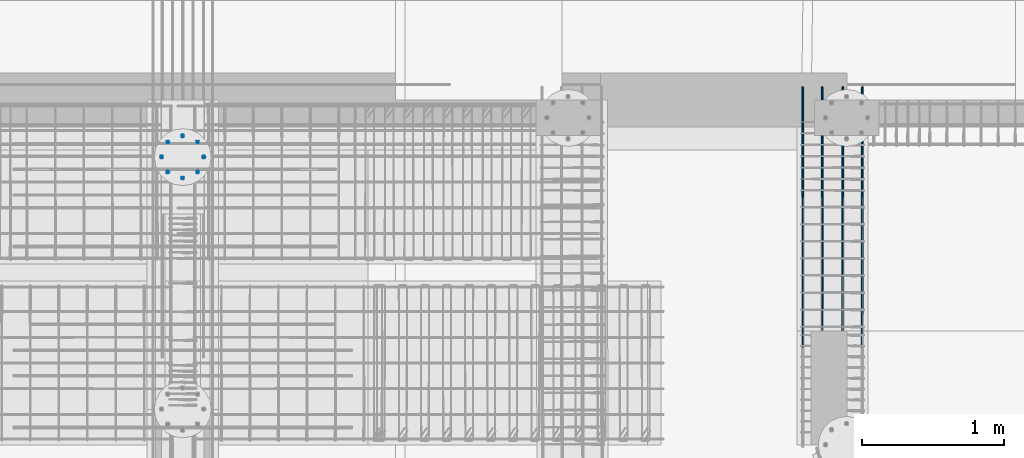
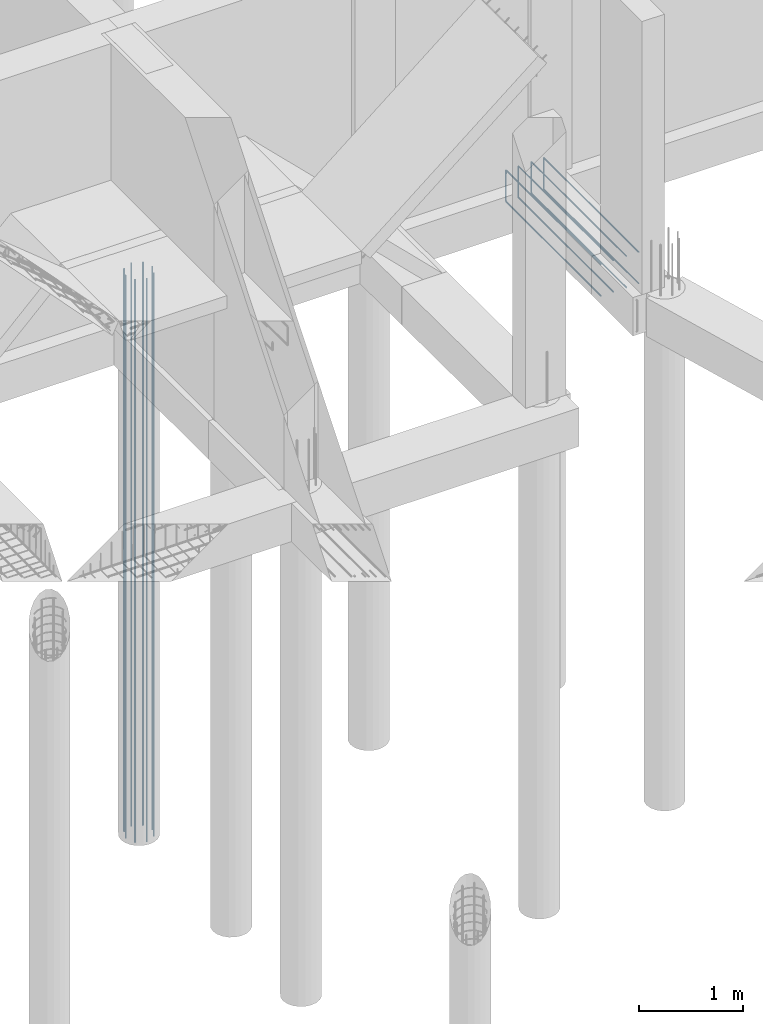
# One storey, part 9 of 13: 2 reinforcing bars.
"""IFC4 building model written with IfcOpenShell, lengths in metres."""

from ifc_helpers import new_model, entity, si_unit, origin_with_axes, place, context, project, spatial, source, transform, mapped, element, save


model = new_model("IFC4")

# Units and contexts
model_context = context("Model", 3, precision=1e-05, world=origin_with_axes())
ifc_project = project(units=[si_unit("LENGTHUNIT", "METRE"), si_unit("AREAUNIT", "SQUARE_METRE"), si_unit("VOLUMEUNIT", "CUBIC_METRE"), si_unit("MASSUNIT", "GRAM", prefix="KILO"), si_unit("TIMEUNIT", "SECOND"), si_unit("PLANEANGLEUNIT", "RADIAN"), si_unit("SOLIDANGLEUNIT", "STERADIAN"), si_unit("THERMODYNAMICTEMPERATUREUNIT", "DEGREE_CELSIUS")], contexts=[model_context])

# Site, building, storey
placement_1 = place(None, origin_with_axes())
site = spatial("IfcSite", under=ifc_project, at=placement_1, Name="Italia", CompositionType="ELEMENT")
building = spatial("IfcBuilding", under=site, at=placement_1, Name="Villa", CompositionType="ELEMENT")
storey = spatial("IfcBuildingStorey", under=building, at=placement_1, Name="Storey 0", CompositionType="ELEMENT", Elevation=0.0)

# Reinforcing bars
shared_shape_1 = source(origin_with_axes(), model_context, "Body", "AdvancedSweptSolid", [
    entity("IfcSweptDiskSolid", entity("IfcIndexedPolyCurve", entity("IfcCartesianPointList3D", [[9.19465, 11.7953, -6.0], [9.19465, 11.7953, 0.6]]), [entity("IfcLineIndex", [1, 2])], False), 0.008),
])
placement_2 = place(placement_1, origin_with_axes())
reinforcing_bar_1_placement = place(placement_2, origin_with_axes())
element("IfcReinforcingBar", 1, at=reinforcing_bar_1_placement, inside=storey, BarLength=6.6, CrossSectionArea=0.00020106, NominalDiameter=0.016, context=model_context, shape_type="MappedRepresentation", body=[
    mapped(shared_shape_1, transform((-0.252651, 0.104651, 0.0), x_axis=(1.0, 0.0, 0.0), y_axis=(0.0, 1.0, 0.0), z_axis=(0.0, 0.0, 1.0), scale=1.0)),
    mapped(shared_shape_1, transform((-0.209303, 0.209303, 0.0), x_axis=(1.0, 0.0, 0.0), y_axis=(0.0, 1.0, 0.0), z_axis=(0.0, 0.0, 1.0), scale=1.0)),
    mapped(shared_shape_1, transform((-0.104651, -0.0433483, 0.0), x_axis=(1.0, 0.0, 0.0), y_axis=(0.0, 1.0, 0.0), z_axis=(0.0, 0.0, 1.0), scale=1.0)),
    mapped(shared_shape_1, transform((-0.209303, 0.0, 0.0), x_axis=(1.0, 0.0, 0.0), y_axis=(0.0, 1.0, 0.0), z_axis=(0.0, 0.0, 1.0), scale=1.0)),
    mapped(shared_shape_1, transform((0.0433483, 0.104651, 0.0), x_axis=(1.0, 0.0, 0.0), y_axis=(0.0, 1.0, 0.0), z_axis=(0.0, 0.0, 1.0), scale=1.0)),
    mapped(shared_shape_1, transform((0.0, 0.0, 0.0), x_axis=(1.0, 0.0, 0.0), y_axis=(0.0, 1.0, 0.0), z_axis=(0.0, 0.0, 1.0), scale=1.0)),
    mapped(shared_shape_1, transform((-0.104651, 0.252651, 0.0), x_axis=(1.0, 0.0, 0.0), y_axis=(0.0, 1.0, 0.0), z_axis=(0.0, 0.0, 1.0), scale=1.0)),
    mapped(shared_shape_1, transform((0.0, 0.209303, 0.0), x_axis=(1.0, 0.0, 0.0), y_axis=(0.0, 1.0, 0.0), z_axis=(0.0, 0.0, 1.0), scale=1.0)),
])
shared_shape_2 = source(origin_with_axes(), model_context, "Body", "AdvancedSweptSolid", [
    entity("IfcSweptDiskSolid", entity("IfcIndexedPolyCurve", entity("IfcCartesianPointList3D", [[13.859, 10.5642, -0.409], [13.859, 11.09, -0.409], [13.859, 12.175, -0.409], [13.859, 12.38, -0.409], [13.859, 12.3838, -0.408239], [13.859, 12.3871, -0.406071], [13.859, 12.3892, -0.402827], [13.859, 12.39, -0.399], [13.859, 12.39, -0.159]]), [entity("IfcLineIndex", [1, 2]), entity("IfcLineIndex", [2, 3]), entity("IfcLineIndex", [3, 4]), entity("IfcLineIndex", [4, 5]), entity("IfcLineIndex", [5, 6]), entity("IfcLineIndex", [6, 7]), entity("IfcLineIndex", [7, 8]), entity("IfcLineIndex", [8, 9])], False), 0.008),
])
reinforcing_bar_2_placement = place(placement_2, origin_with_axes())
element("IfcReinforcingBar", 2, at=reinforcing_bar_2_placement, inside=storey, BarLength=2.07142, CrossSectionArea=0.00020106, NominalDiameter=0.016, context=model_context, shape_type="MappedRepresentation", body=[
    mapped(shared_shape_2, transform((27.3, 0.0, -0.45), x_axis=(-1.0, 0.0, 0.0), y_axis=(0.0, 1.0, 0.0), z_axis=(0.0, 0.0, -1.0), scale=1.0)),
    mapped(shared_shape_2, transform((27.718, 0.0, -0.45), x_axis=(-1.0, 0.0, 0.0), y_axis=(0.0, 1.0, 0.0), z_axis=(0.0, 0.0, -1.0), scale=1.0)),
    mapped(shared_shape_2, transform((27.4367, 0.0, -0.45), x_axis=(-1.0, 0.0, 0.0), y_axis=(0.0, 1.0, 0.0), z_axis=(0.0, 0.0, -1.0), scale=1.0)),
    mapped(shared_shape_2, transform((27.5813, 0.0, -0.45), x_axis=(-1.0, 0.0, 0.0), y_axis=(0.0, 1.0, 0.0), z_axis=(0.0, 0.0, -1.0), scale=1.0)),
    mapped(shared_shape_2, transform((-0.417999, 0.0, 0.0), x_axis=(1.0, 0.0, 0.0), y_axis=(0.0, 1.0, 0.0), z_axis=(0.0, 0.0, 1.0), scale=1.0)),
    mapped(shared_shape_2, transform((0.0, 0.0, 0.0), x_axis=(1.0, 0.0, 0.0), y_axis=(0.0, 1.0, 0.0), z_axis=(0.0, 0.0, 1.0), scale=1.0)),
    mapped(shared_shape_2, transform((-0.281333, 0.0, 0.0), x_axis=(1.0, 0.0, 0.0), y_axis=(0.0, 1.0, 0.0), z_axis=(0.0, 0.0, 1.0), scale=1.0)),
    mapped(shared_shape_2, transform((-0.136666, 0.0, 0.0), x_axis=(1.0, 0.0, 0.0), y_axis=(0.0, 1.0, 0.0), z_axis=(0.0, 0.0, 1.0), scale=1.0)),
])

save(model, "model.ifc")
